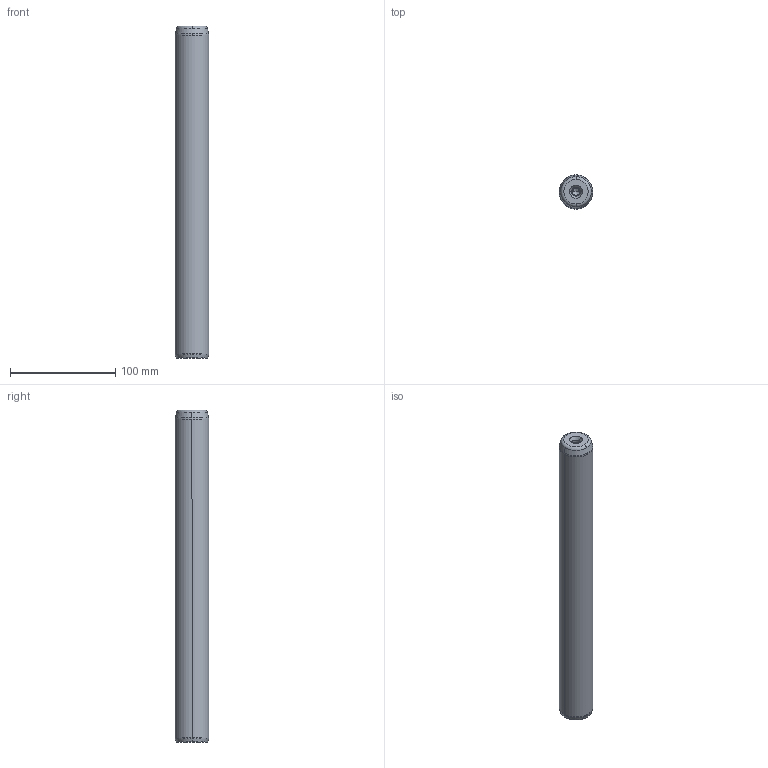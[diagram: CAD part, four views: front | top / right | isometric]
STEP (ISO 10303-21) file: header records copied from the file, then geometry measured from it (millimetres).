
FILE_DESCRIPTION((''),'2;1');
FILE_NAME('P10_032_315.stp','2008-12-23T15:05:24',(''),(''),'Mechanical Desktop 2009','Mechanical Desktop 2009',', , ');
FILE_SCHEMA(('CONFIG_CONTROL_DESIGN'));
Length unit declared in the file: millimetre
Products named in the file (5): Product; ProductAA; blmdl1; ProductA; blmdl1A
Assembly tree (2 placements, depth 3):
  Product
    ProductAA
      blmdl1
  ProductA
  blmdl1A
Bounding box: 32 x 32 x 315 mm (x, y, z)
Volume: 251113.4 mm3; surface area: 33423.1 mm2
Topology: 1 solids, 1 shells, 26 faces, 66 edges, 41 vertices
Faces by surface type: cone 10, torus 8, cylinder 6, plane 2
Entity records: 1012 total; most frequent: DIRECTION 170, CARTESIAN_POINT 134, ORIENTED_EDGE 128, AXIS2_PLACEMENT_3D 77, EDGE_CURVE 64, CIRCLE 48, VERTEX_POINT 41, EDGE_LOOP 27
